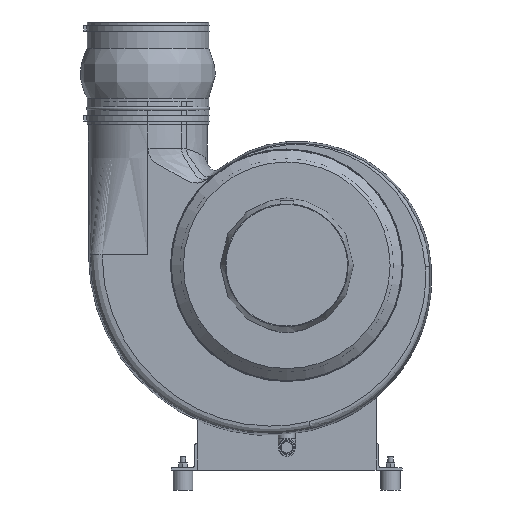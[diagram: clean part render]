
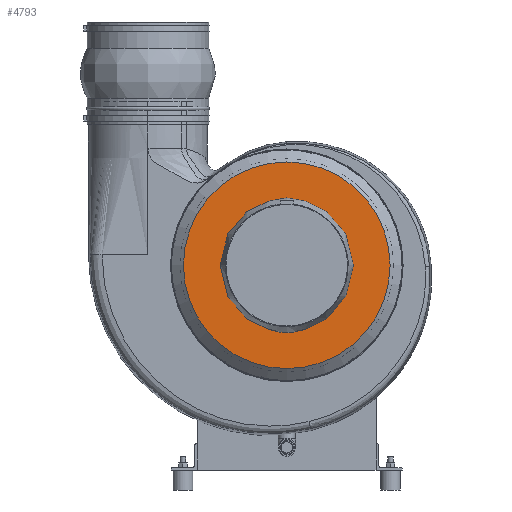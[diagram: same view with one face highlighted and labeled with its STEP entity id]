
A CAD part, front view. The second image highlights one B-rep face of the part: STEP entity #4793.
In plain terms, the highlighted planar face has unit normal (0, -1, 0) as drawn and (-1, 0, 0) by its records, which use the part's own axes.
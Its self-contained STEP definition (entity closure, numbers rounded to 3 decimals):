
#4793 = ADVANCED_FACE( '', ( #10209, #10210 ), #10211, .T. );
#10209 = FACE_BOUND( '', #39205, .T. );
#10210 = FACE_OUTER_BOUND( '', #39206, .T. );
#10211 = PLANE( '', #39207 );
#39205 = EDGE_LOOP( '', ( #72064 ) );
#39206 = EDGE_LOOP( '', ( #72065 ) );
#39207 = AXIS2_PLACEMENT_3D( '', #72066, #72067, #72068 );
#72064 = ORIENTED_EDGE( '', *, *, #84215, .F. );
#72065 = ORIENTED_EDGE( '', *, *, #84216, .T. );
#72066 = CARTESIAN_POINT( '', ( 40., 0., 0. ) );
#72067 = DIRECTION( '', ( -1., 0., 0. ) );
#72068 = DIRECTION( '', ( 0., 0., 1. ) );
#84215 = EDGE_CURVE( '', #92208, #92208, #92209, .T. );
#84216 = EDGE_CURVE( '', #92210, #92210, #92211, .T. );
#92208 = VERTEX_POINT( '', #119296 );
#92209 = CIRCLE( '', #119297, 90. );
#92210 = VERTEX_POINT( '', #119298 );
#92211 = CIRCLE( '', #119299, 156.338 );
#119296 = CARTESIAN_POINT( '', ( 40., 0., 90. ) );
#119297 = AXIS2_PLACEMENT_3D( '', #128760, #128761, #128762 );
#119298 = CARTESIAN_POINT( '', ( 40., 0., 156.338 ) );
#119299 = AXIS2_PLACEMENT_3D( '', #128763, #128764, #128765 );
#128760 = CARTESIAN_POINT( '', ( 40., 0., 0. ) );
#128761 = DIRECTION( '', ( -1., 0., 0. ) );
#128762 = DIRECTION( '', ( 0., 0., 1. ) );
#128763 = CARTESIAN_POINT( '', ( 40., 0., 0. ) );
#128764 = DIRECTION( '', ( -1., 0., 0. ) );
#128765 = DIRECTION( '', ( 0., 0., 1. ) );
